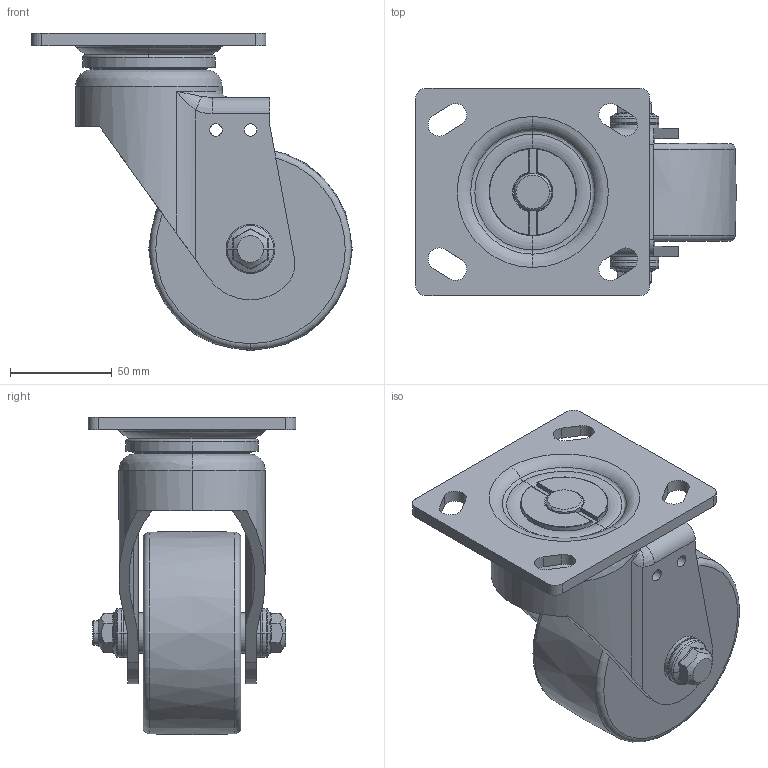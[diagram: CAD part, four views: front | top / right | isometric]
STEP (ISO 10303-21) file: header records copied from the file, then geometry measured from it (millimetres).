
FILE_DESCRIPTION((''),'2;1');
FILE_NAME('GH-100-ASF-MCD.stp','2013-04-30T16:41:40',(''),(''),'Mechanical Desktop 2009','Mechanical Desktop 2009',', , ');
FILE_SCHEMA(('CONFIG_CONTROL_DESIGN'));
Length unit declared in the file: millimetre
Products named in the file (2): GH-100-ASF-MCD; PLATE
Assembly tree (1 placements, depth 2):
  GH-100-ASF-MCD
    PLATE
Bounding box: 157.5 x 102 x 155.95 mm (x, y, z)
Volume: 598844.9 mm3; surface area: 115636 mm2
Topology: 1 solids, 4 shells, 280 faces, 690 edges, 437 vertices
Faces by surface type: cylinder 79, plane 74, bspline 56, torus 47, cone 24
Entity records: 11298 total; most frequent: CARTESIAN_POINT 4584, DIRECTION 1441, ORIENTED_EDGE 1374, EDGE_CURVE 687, AXIS2_PLACEMENT_3D 623, VERTEX_POINT 437, CIRCLE 390, EDGE_LOOP 326
